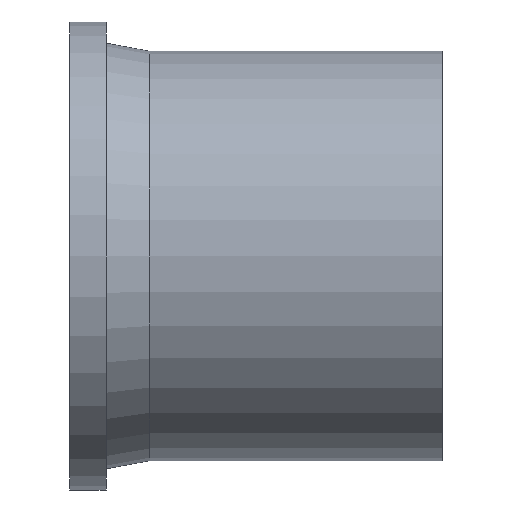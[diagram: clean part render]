
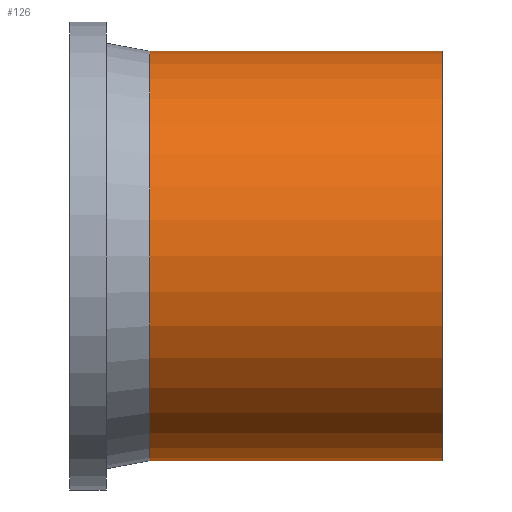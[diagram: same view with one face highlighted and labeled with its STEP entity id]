
A CAD part, front view. The second image highlights one B-rep face of the part: STEP entity #126.
In plain terms, the highlighted cylindrical face has radius 140 mm (diameter 280 mm), a full revolution.
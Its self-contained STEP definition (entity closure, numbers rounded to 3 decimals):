
#77=CARTESIAN_POINT('',(55.,140.,0.));
#78=VERTEX_POINT('',#77);
#79=CARTESIAN_POINT('',(55.,0.,0.));
#80=DIRECTION('',(1.,0.,0.));
#81=DIRECTION('',(0.,1.,0.));
#82=AXIS2_PLACEMENT_3D('',#79,#80,#81);
#83=CIRCLE('',#82,140.);
#84=EDGE_CURVE('',#78,#78,#83,.T.);
#102=CARTESIAN_POINT('',(255.,140.,0.));
#103=VERTEX_POINT('',#102);
#104=CARTESIAN_POINT('',(255.,0.,0.));
#105=DIRECTION('',(1.,0.,0.));
#106=DIRECTION('',(0.,1.,0.));
#107=AXIS2_PLACEMENT_3D('',#104,#105,#106);
#108=CIRCLE('',#107,140.);
#109=EDGE_CURVE('',#103,#103,#108,.T.);
#110=ORIENTED_EDGE('',*,*,#109,.F.);
#111=CARTESIAN_POINT('',(155.,140.,0.));
#112=DIRECTION('',(1.,0.,0.));
#113=VECTOR('',#112,140.);
#114=LINE('',#111,#113);
#115=EDGE_CURVE('',#78,#103,#114,.T.);
#116=ORIENTED_EDGE('',*,*,#115,.F.);
#117=ORIENTED_EDGE('',*,*,#84,.T.);
#118=ORIENTED_EDGE('',*,*,#115,.T.);
#119=EDGE_LOOP('',(#110,#116,#117,#118));
#120=FACE_OUTER_BOUND('',#119,.T.);
#121=CARTESIAN_POINT('',(155.,0.,0.));
#122=DIRECTION('',(1.,0.,0.));
#123=DIRECTION('',(0.,1.,0.));
#124=AXIS2_PLACEMENT_3D('',#121,#122,#123);
#125=CYLINDRICAL_SURFACE('',#124,140.);
#126=ADVANCED_FACE('',(#120),#125,.T.);
